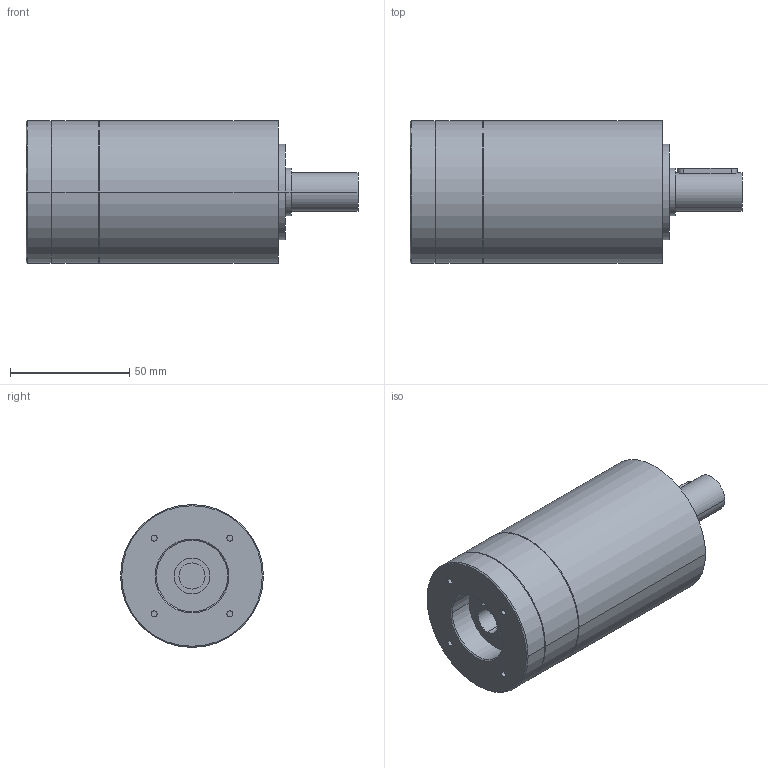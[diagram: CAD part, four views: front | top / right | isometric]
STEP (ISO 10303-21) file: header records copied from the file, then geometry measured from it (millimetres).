
FILE_DESCRIPTION(('CoCreate Modeling STEP Export'),'2;1');
FILE_NAME('GPR75_ig-9-12-16-20-24-30-36_16_B14_11_P29.stp','2014-08-25T16:01:24',(''),(''),'CoCreate Modeling STEP processor for AP214 (Solid Model)','CoCreate Modeling 16.00C 25-Feb-2009 (C) Parametric Technology GmbH','');
FILE_SCHEMA(('AUTOMOTIVE_DESIGN { 1 0 10303 214 1 1 1 1 }'));
Length unit declared in the file: millimetre
Products named in the file (2): GPR75_ig-9-12-16-20-24-30-36_16_B14_11_P29
Assembly tree (1 placements, depth 2):
  GPR75_ig-9-12-16-20-24-30-36_16_B14_11_P29
    GPR75_ig-9-12-16-20-24-30-36_16_B14_11_P29
Bounding box: 139.4 x 60 x 60 mm (x, y, z)
Volume: 300066.7 mm3; surface area: 30746.1 mm2
Topology: 1 solids, 1 shells, 69 faces, 173 edges, 121 vertices
Faces by surface type: cylinder 38, plane 21, cone 10
Entity records: 1751 total; most frequent: ORIENTED_EDGE 342, CARTESIAN_POINT 325, DIRECTION 226, EDGE_CURVE 171, VERTEX_POINT 121, AXIS2_PLACEMENT_3D 86, EDGE_LOOP 86, FACE_OUTER_BOUND 69
